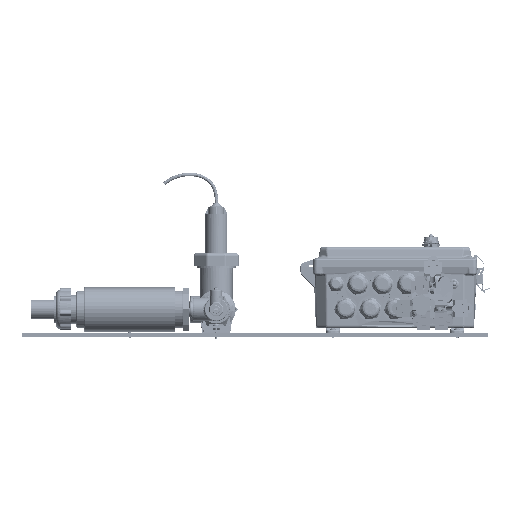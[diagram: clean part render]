
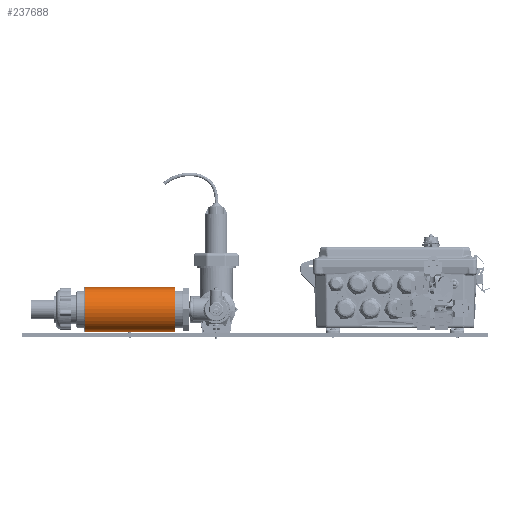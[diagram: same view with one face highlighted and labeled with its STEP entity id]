
A CAD part, front view. The second image highlights one B-rep face of the part: STEP entity #237688.
In plain terms, the highlighted cylindrical face has radius 36.284 mm (diameter 72.568 mm), a partial arc.
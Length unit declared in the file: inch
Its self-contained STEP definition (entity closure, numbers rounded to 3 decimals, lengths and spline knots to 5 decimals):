
#3099 = LINE ( 'NONE', #208388, #161410 ) ;
#8421 = VECTOR ( 'NONE', #20897, 39.37008 ) ;
#20897 = DIRECTION ( 'NONE',  ( -1., 0., 0. ) ) ;
#24209 = CARTESIAN_POINT ( 'NONE',  ( 2.935, 0., 1.4285 ) ) ;
#33358 = VECTOR ( 'NONE', #519578, 39.37008 ) ;
#96598 = CARTESIAN_POINT ( 'NONE',  ( 2.885, 0., 0. ) ) ;
#99295 = VERTEX_POINT ( 'NONE', #112167 ) ;
#109046 = LINE ( 'NONE', #314328, #33358 ) ;
#112167 = CARTESIAN_POINT ( 'NONE',  ( 0., 0., -1.4285 ) ) ;
#113973 = VECTOR ( 'NONE', #229477, 39.37008 ) ;
#130678 = VERTEX_POINT ( 'NONE', #607345 ) ;
#141313 = DIRECTION ( 'NONE',  ( -1., 0., 0. ) ) ;
#148808 = VERTEX_POINT ( 'NONE', #406748 ) ;
#161410 = VECTOR ( 'NONE', #413609, 39.37008 ) ;
#191810 = FACE_OUTER_BOUND ( 'NONE', #254606, .T. ) ;
#192195 = CARTESIAN_POINT ( 'NONE',  ( -2.885, 0., 0. ) ) ;
#197152 = VERTEX_POINT ( 'NONE', #314052 ) ;
#208388 = CARTESIAN_POINT ( 'NONE',  ( 2.935, 0., -1.4285 ) ) ;
#221519 = CARTESIAN_POINT ( 'NONE',  ( -2.885, 0., -1.4285 ) ) ;
#223520 = ORIENTED_EDGE ( 'NONE', *, *, #512753, .F. ) ;
#228804 = AXIS2_PLACEMENT_3D ( 'NONE', #192195, #397424, #602720 ) ;
#229477 = DIRECTION ( 'NONE',  ( -1., 0., 0. ) ) ;
#237688 = ADVANCED_FACE ( 'NONE', ( #191810 ), #397056, .T. ) ;
#243411 = AXIS2_PLACEMENT_3D ( 'NONE', #96598, #456614, #661878 ) ;
#247870 = ORIENTED_EDGE ( 'NONE', *, *, #648105, .F. ) ;
#254606 = EDGE_LOOP ( 'NONE', ( #223520, #443144, #435034, #295262, #362526, #247870 ) ) ;
#276617 = LINE ( 'NONE', #481890, #8421 ) ;
#295262 = ORIENTED_EDGE ( 'NONE', *, *, #582528, .T. ) ;
#304568 = EDGE_CURVE ( 'NONE', #148808, #130678, #533522, .T. ) ;
#314052 = CARTESIAN_POINT ( 'NONE',  ( -2.885, 0., 1.4285 ) ) ;
#314328 = CARTESIAN_POINT ( 'NONE',  ( 2.935, 0., 1.4285 ) ) ;
#346620 = DIRECTION ( 'NONE',  ( 0., 0., 1. ) ) ;
#362526 = ORIENTED_EDGE ( 'NONE', *, *, #477887, .T. ) ;
#385073 = AXIS2_PLACEMENT_3D ( 'NONE', #602345, #141313, #346620 ) ;
#394548 = VERTEX_POINT ( 'NONE', #522633 ) ;
#397056 = CYLINDRICAL_SURFACE ( 'NONE', #385073, 1.4285 ) ;
#397424 = DIRECTION ( 'NONE',  ( 1., 0., 0. ) ) ;
#406748 = CARTESIAN_POINT ( 'NONE',  ( 2.885, 0., -1.4285 ) ) ;
#413609 = DIRECTION ( 'NONE',  ( -1., 0., 0. ) ) ;
#435034 = ORIENTED_EDGE ( 'NONE', *, *, #501634, .T. ) ;
#443144 = ORIENTED_EDGE ( 'NONE', *, *, #304568, .T. ) ;
#456614 = DIRECTION ( 'NONE',  ( -1., 0., 0. ) ) ;
#477887 = EDGE_CURVE ( 'NONE', #197152, #569344, #518917, .T. ) ;
#481890 = CARTESIAN_POINT ( 'NONE',  ( 2.935, 0., -1.4285 ) ) ;
#485218 = LINE ( 'NONE', #24209, #113973 ) ;
#501634 = EDGE_CURVE ( 'NONE', #130678, #394548, #485218, .T. ) ;
#512753 = EDGE_CURVE ( 'NONE', #148808, #99295, #3099, .T. ) ;
#518917 = CIRCLE ( 'NONE', #228804, 1.4285 ) ;
#519578 = DIRECTION ( 'NONE',  ( -1., 0., 0. ) ) ;
#522633 = CARTESIAN_POINT ( 'NONE',  ( 0., 0., 1.4285 ) ) ;
#533522 = CIRCLE ( 'NONE', #243411, 1.4285 ) ;
#569344 = VERTEX_POINT ( 'NONE', #221519 ) ;
#582528 = EDGE_CURVE ( 'NONE', #394548, #197152, #109046, .T. ) ;
#602345 = CARTESIAN_POINT ( 'NONE',  ( 2.935, 0., 0. ) ) ;
#602720 = DIRECTION ( 'NONE',  ( 0., 0., -1. ) ) ;
#607345 = CARTESIAN_POINT ( 'NONE',  ( 2.885, 0., 1.4285 ) ) ;
#648105 = EDGE_CURVE ( 'NONE', #99295, #569344, #276617, .T. ) ;
#661878 = DIRECTION ( 'NONE',  ( 0., 0., -1. ) ) ;
